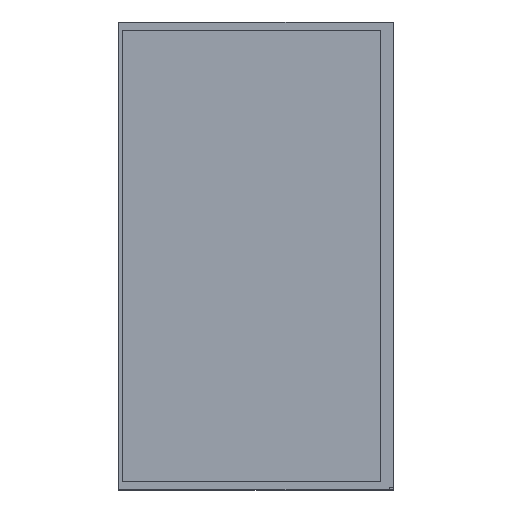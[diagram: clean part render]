
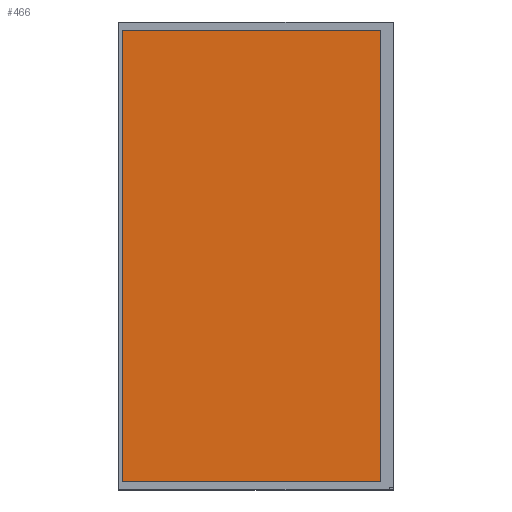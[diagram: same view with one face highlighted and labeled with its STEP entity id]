
A CAD part, top view. The second image highlights one B-rep face of the part: STEP entity #466.
In plain terms, the highlighted planar face has unit normal (0, 0, 1).
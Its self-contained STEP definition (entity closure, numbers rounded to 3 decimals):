
#28=LINE('',#692,#83);
#29=LINE('',#694,#84);
#30=LINE('',#696,#85);
#31=LINE('',#697,#86);
#83=VECTOR('',#564,10.);
#84=VECTOR('',#565,10.);
#85=VECTOR('',#566,10.);
#86=VECTOR('',#567,10.);
#142=FACE_OUTER_BOUND('',#170,.T.);
#170=EDGE_LOOP('',(#316,#317,#318,#319));
#211=VERTEX_POINT('',#690);
#212=VERTEX_POINT('',#691);
#213=VERTEX_POINT('',#693);
#214=VERTEX_POINT('',#695);
#253=EDGE_CURVE('',#211,#212,#28,.T.);
#254=EDGE_CURVE('',#212,#213,#29,.T.);
#255=EDGE_CURVE('',#213,#214,#30,.T.);
#256=EDGE_CURVE('',#214,#211,#31,.T.);
#316=ORIENTED_EDGE('',*,*,#253,.T.);
#317=ORIENTED_EDGE('',*,*,#254,.T.);
#318=ORIENTED_EDGE('',*,*,#255,.T.);
#319=ORIENTED_EDGE('',*,*,#256,.T.);
#442=PLANE('',#513);
#466=ADVANCED_FACE('',(#142),#442,.T.);
#513=AXIS2_PLACEMENT_3D('',#689,#562,#563);
#562=DIRECTION('center_axis',(0.,0.,1.));
#563=DIRECTION('ref_axis',(1.,0.,0.));
#564=DIRECTION('',(-1.,0.,0.));
#565=DIRECTION('',(0.,-1.,0.));
#566=DIRECTION('',(1.,0.,0.));
#567=DIRECTION('',(0.,1.,0.));
#689=CARTESIAN_POINT('Origin',(227.141,396.843,-148.));
#690=CARTESIAN_POINT('',(372.319,659.374,-148.));
#691=CARTESIAN_POINT('',(71.595,659.374,-148.));
#692=CARTESIAN_POINT('',(299.73,659.374,-148.));
#693=CARTESIAN_POINT('',(71.595,133.972,-148.));
#694=CARTESIAN_POINT('',(71.595,528.108,-148.));
#695=CARTESIAN_POINT('',(372.319,133.972,-148.));
#696=CARTESIAN_POINT('',(149.368,133.972,-148.));
#697=CARTESIAN_POINT('',(372.319,265.407,-148.));
